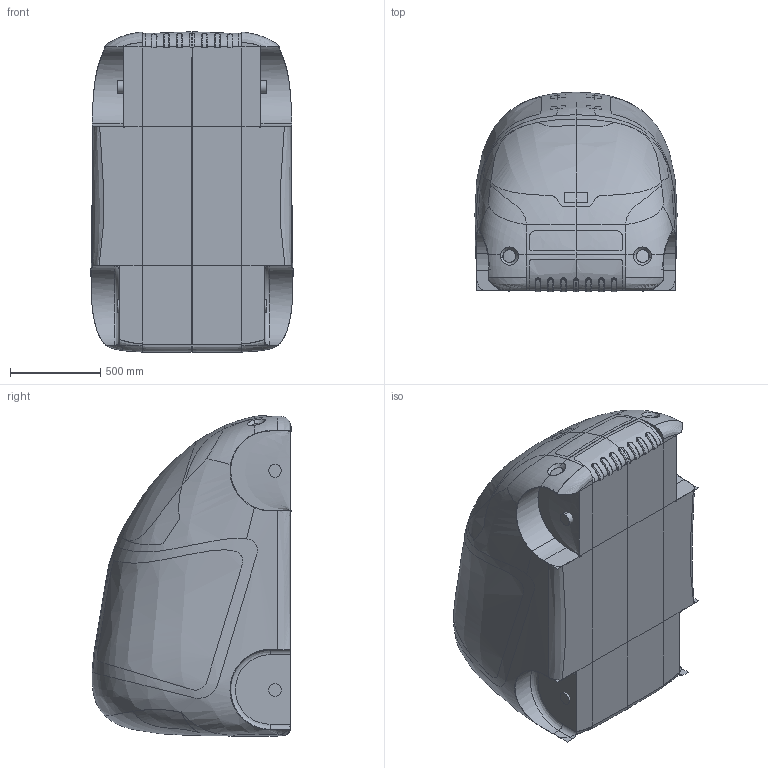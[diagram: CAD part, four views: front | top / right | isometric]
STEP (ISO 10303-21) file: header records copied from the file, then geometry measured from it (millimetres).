
FILE_DESCRIPTION (( 'STEP AP203' ), '1' );
FILE_NAME ('car.STEP', '2011-12-01T07:43:51', ( '' ), ( '' ), 'SwSTEP 2.0', 'SolidWorks 2011', '' );
FILE_SCHEMA (( 'CONFIG_CONTROL_DESIGN' ));
Products named in the file (2): car; voituree
Assembly tree (1 placements, depth 2):
  car
    voituree
Bounding box: 1118.17 x 1105.73 x 1772.28 mm (x, y, z)
Surface area: 8292656 mm2 (no closed solid volume)
Topology: 0 solids, 39 shells, 237 faces, 754 edges, 564 vertices
Faces by surface type: bspline 192, plane 33, cylinder 12
Entity records: 62092 total; most frequent: CARTESIAN_POINT 57209, ORIENTED_EDGE 1262, EDGE_CURVE 752, B_SPLINE_CURVE_WITH_KNOTS 633, VERTEX_POINT 564, EDGE_LOOP 241, DIRECTION 237, FACE_OUTER_BOUND 237
